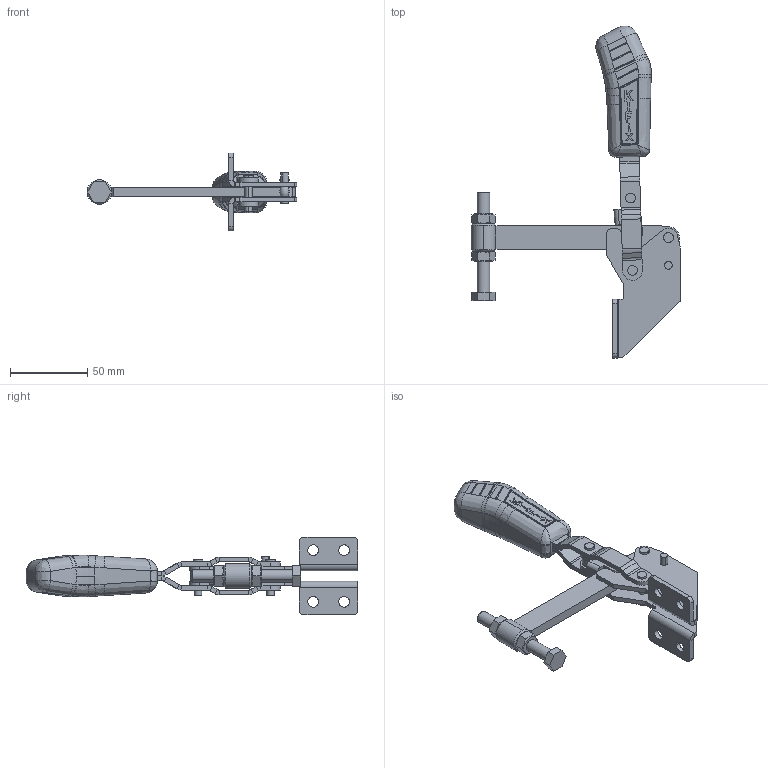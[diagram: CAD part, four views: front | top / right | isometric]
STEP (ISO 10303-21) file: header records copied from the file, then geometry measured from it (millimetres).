
FILE_DESCRIPTION (( 'STEP AP203' ), '1' );
FILE_NAME ('KF-019 DS.STEP', '2014-07-31T12:38:53', ( 'Ricardo' ), ( '' ), 'SwSTEP 2.0', 'SolidWorks 2013', '' );
FILE_SCHEMA (( 'CONFIG_CONTROL_DESIGN' ));
Length unit declared in the file: millimetre
Products named in the file (15): 07.60001; 02.12022_Direita; 03.15003; 02.12022_Esquerda; 20.20004; 01.10005; 12.50020; 04.10001; 11.50002; 04.20001; PSB-M8; 05.20017; KF-019 DS; 06.50001; 06.50002
Assembly tree (18 placements, depth 3):
  KF-019 DS
    02.12022_Direita
    02.12022_Esquerda
    01.10005  x2
    04.10001
    04.20001
    05.20017
    06.50001  x2
    06.50002  x2
    07.60001
    03.15003
    PSB-M8
      20.20004
      12.50020
      11.50002  x2
Bounding box: 135.88 x 215.17 x 50.5 mm (x, y, z)
Volume: 97872.1 mm3; surface area: 50783.7 mm2
Topology: 17 solids, 17 shells, 707 faces, 1744 edges, 1086 vertices
Faces by surface type: plane 319, cylinder 215, bspline 126, cone 42, torus 5
Entity records: 23464 total; most frequent: CARTESIAN_POINT 8443, ORIENTED_EDGE 3044, DIRECTION 2358, EDGE_CURVE 1522, VERTEX_POINT 964, AXIS2_PLACEMENT_3D 833, LINE 692, VECTOR 692
